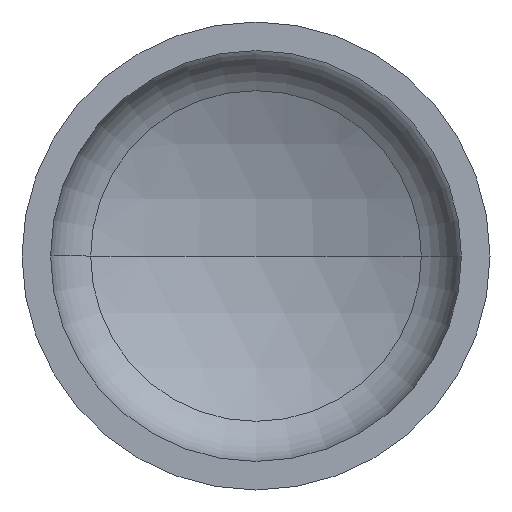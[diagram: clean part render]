
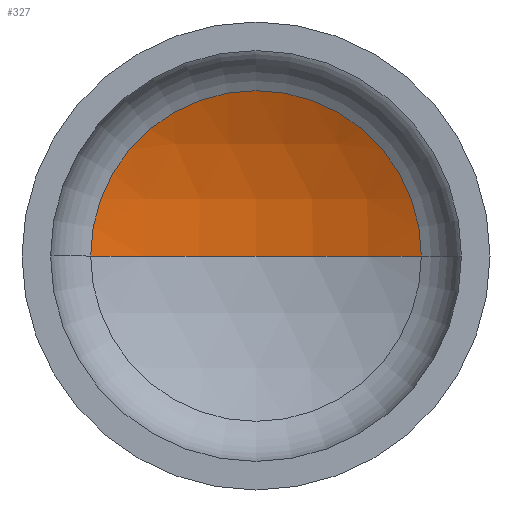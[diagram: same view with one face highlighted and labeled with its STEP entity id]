
A CAD part, front view. The second image highlights one B-rep face of the part: STEP entity #327.
In plain terms, the highlighted spherical face has radius 406 mm.
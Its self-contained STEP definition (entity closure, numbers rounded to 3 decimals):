
#2 = AXIS2_PLACEMENT_3D ( 'NONE', #93, #35, #206 ) ;
#31 = FACE_OUTER_BOUND ( 'NONE', #185, .T. ) ;
#35 = DIRECTION ( 'NONE',  ( 0., 0., -1. ) ) ;
#41 = AXIS2_PLACEMENT_3D ( 'NONE', #160, #350, #199 ) ;
#47 = AXIS2_PLACEMENT_3D ( 'NONE', #276, #81, #299 ) ;
#48 = AXIS2_PLACEMENT_3D ( 'NONE', #230, #392, #255 ) ;
#74 = EDGE_CURVE ( 'NONE', #164, #203, #214, .T. ) ;
#76 = EDGE_CURVE ( 'NONE', #135, #164, #112, .T. ) ;
#77 = EDGE_CURVE ( 'NONE', #135, #203, #397, .T. ) ;
#81 = DIRECTION ( 'NONE',  ( 0., 0., -1. ) ) ;
#93 = CARTESIAN_POINT ( 'NONE',  ( 0., -194.209, 0. ) ) ;
#107 = ORIENTED_EDGE ( 'NONE', *, *, #74, .T. ) ;
#112 = CIRCLE ( 'NONE', #47, 406. ) ;
#115 = ORIENTED_EDGE ( 'NONE', *, *, #76, .T. ) ;
#135 = VERTEX_POINT ( 'NONE', #303 ) ;
#160 = CARTESIAN_POINT ( 'NONE',  ( 0., -194.209, 0. ) ) ;
#164 = VERTEX_POINT ( 'NONE', #398 ) ;
#185 = EDGE_LOOP ( 'NONE', ( #216, #115, #107 ) ) ;
#199 = DIRECTION ( 'NONE',  ( 1., 0., 0. ) ) ;
#203 = VERTEX_POINT ( 'NONE', #304 ) ;
#206 = DIRECTION ( 'NONE',  ( -1., 0., 0. ) ) ;
#214 = CIRCLE ( 'NONE', #48, 179.482 ) ;
#216 = ORIENTED_EDGE ( 'NONE', *, *, #77, .F. ) ;
#230 = CARTESIAN_POINT ( 'NONE',  ( 0., 169.964, 0. ) ) ;
#255 = DIRECTION ( 'NONE',  ( 1., 0., 0. ) ) ;
#276 = CARTESIAN_POINT ( 'NONE',  ( 0., -194.209, 0. ) ) ;
#296 = SPHERICAL_SURFACE ( 'NONE', #2, 406. ) ;
#299 = DIRECTION ( 'NONE',  ( -1., 0., 0. ) ) ;
#303 = CARTESIAN_POINT ( 'NONE',  ( 0., 211.791, 0. ) ) ;
#304 = CARTESIAN_POINT ( 'NONE',  ( -179.482, 169.964, 0. ) ) ;
#327 = ADVANCED_FACE ( 'NONE', ( #31 ), #296, .F. ) ;
#350 = DIRECTION ( 'NONE',  ( 0., 0., 1. ) ) ;
#392 = DIRECTION ( 'NONE',  ( 0., -1., 0. ) ) ;
#397 = CIRCLE ( 'NONE', #41, 406. ) ;
#398 = CARTESIAN_POINT ( 'NONE',  ( 179.482, 169.964, 0. ) ) ;
